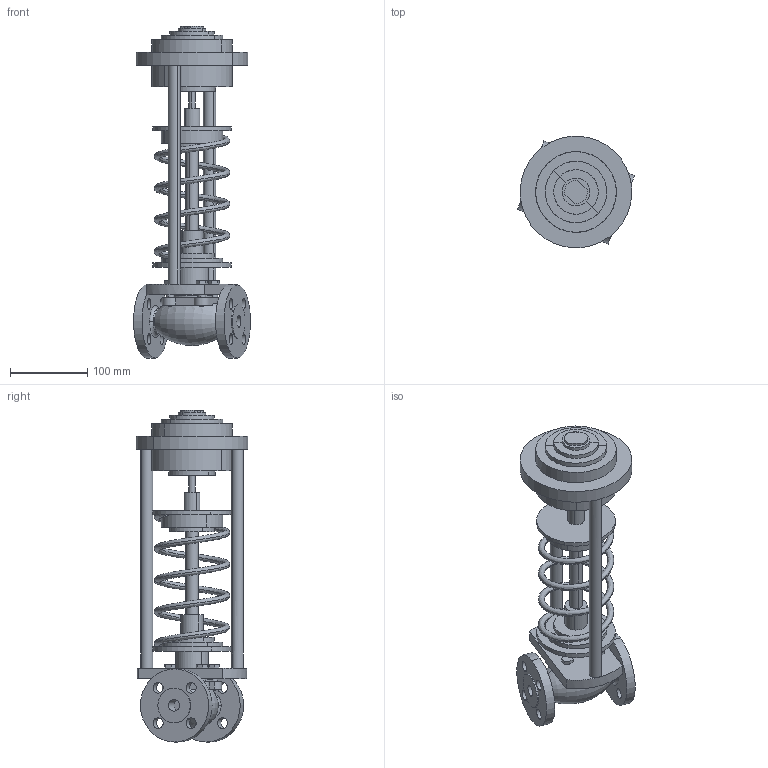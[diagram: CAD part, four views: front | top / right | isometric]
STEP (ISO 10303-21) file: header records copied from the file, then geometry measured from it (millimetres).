
FILE_DESCRIPTION (( 'STEP AP214' ), '1' );
FILE_NAME ('RDT-H-RDT-PH DN15.STEP', '2025-12-12T10:48:19', ( '' ), ( '' ), 'SwSTEP 2.0', 'SolidWorks 2023', '' );
FILE_SCHEMA (( 'AUTOMOTIVE_DESIGN' ));
Length unit declared in the file: millimetre
Products named in the file (1): RDT-H-RDT-PH DN15
Bounding box: 151.7 x 144.69 x 431 mm (x, y, z)
Volume: 1767488.8 mm3; surface area: 253949.4 mm2
Topology: 1 solids, 1 shells, 197 faces, 486 edges, 318 vertices
Faces by surface type: cylinder 85, plane 78, cone 24, torus 8, bspline 2
Entity records: 18305 total; most frequent: CARTESIAN_POINT 13393, DIRECTION 1075, ORIENTED_EDGE 972, EDGE_CURVE 486, AXIS2_PLACEMENT_3D 429, VERTEX_POINT 318, EDGE_LOOP 254, CIRCLE 233
